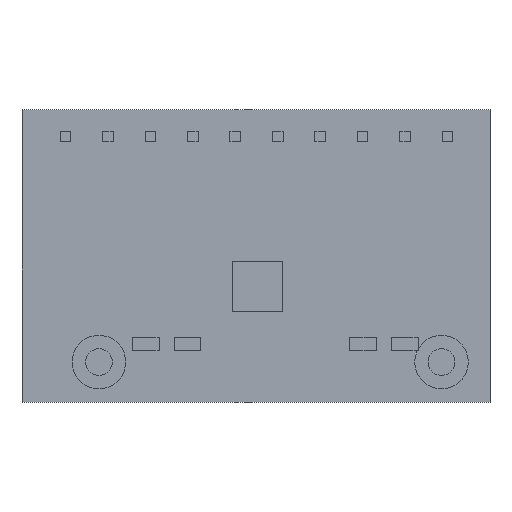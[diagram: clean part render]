
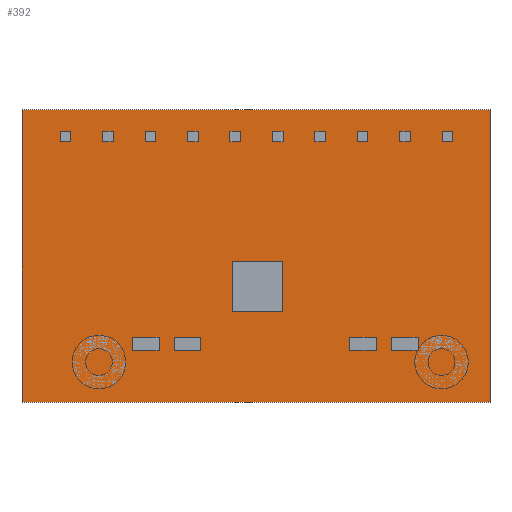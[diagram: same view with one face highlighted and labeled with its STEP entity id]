
A CAD part, top view. The second image highlights one B-rep face of the part: STEP entity #392.
In plain terms, the highlighted planar face has unit normal (0, 0, 1).
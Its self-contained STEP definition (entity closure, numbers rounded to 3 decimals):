
#78 = VERTEX_POINT('',#79);
#79 = CARTESIAN_POINT('',(-2.6,-15.9,12.6));
#86 = PLANE('',#87);
#87 = AXIS2_PLACEMENT_3D('',#88,#89,#90);
#88 = CARTESIAN_POINT('',(-2.6,-15.9,11.));
#89 = DIRECTION('',(1.,0.,0.));
#90 = DIRECTION('',(0.,0.,1.));
#98 = PLANE('',#99);
#99 = AXIS2_PLACEMENT_3D('',#100,#101,#102);
#100 = CARTESIAN_POINT('',(-2.6,-15.9,11.));
#101 = DIRECTION('',(0.,1.,0.));
#102 = DIRECTION('',(0.,0.,1.));
#139 = VERTEX_POINT('',#140);
#140 = CARTESIAN_POINT('',(-2.6,1.6,12.6));
#154 = PLANE('',#155);
#155 = AXIS2_PLACEMENT_3D('',#156,#157,#158);
#156 = CARTESIAN_POINT('',(-2.6,1.6,11.));
#157 = DIRECTION('',(0.,1.,0.));
#158 = DIRECTION('',(0.,0.,1.));
#166 = EDGE_CURVE('',#78,#139,#167,.T.);
#167 = SURFACE_CURVE('',#168,(#172,#179),.PCURVE_S1.);
#168 = LINE('',#169,#170);
#169 = CARTESIAN_POINT('',(-2.6,-15.9,12.6));
#170 = VECTOR('',#171,1.);
#171 = DIRECTION('',(0.,1.,0.));
#172 = PCURVE('',#86,#173);
#173 = DEFINITIONAL_REPRESENTATION('',(#174),#178);
#174 = LINE('',#175,#176);
#175 = CARTESIAN_POINT('',(1.6,0.));
#176 = VECTOR('',#177,1.);
#177 = DIRECTION('',(0.,-1.));
#178 = ( GEOMETRIC_REPRESENTATION_CONTEXT(2) 
PARAMETRIC_REPRESENTATION_CONTEXT() REPRESENTATION_CONTEXT('2D SPACE',''
  ) );
#179 = PCURVE('',#180,#185);
#180 = PLANE('',#181);
#181 = AXIS2_PLACEMENT_3D('',#182,#183,#184);
#182 = CARTESIAN_POINT('',(-2.6,-15.9,12.6));
#183 = DIRECTION('',(0.,0.,1.));
#184 = DIRECTION('',(1.,0.,0.));
#185 = DEFINITIONAL_REPRESENTATION('',(#186),#190);
#186 = LINE('',#187,#188);
#187 = CARTESIAN_POINT('',(0.,0.));
#188 = VECTOR('',#189,1.);
#189 = DIRECTION('',(0.,1.));
#190 = ( GEOMETRIC_REPRESENTATION_CONTEXT(2) 
PARAMETRIC_REPRESENTATION_CONTEXT() REPRESENTATION_CONTEXT('2D SPACE',''
  ) );
#198 = VERTEX_POINT('',#199);
#199 = CARTESIAN_POINT('',(25.4,-15.9,12.6));
#206 = PLANE('',#207);
#207 = AXIS2_PLACEMENT_3D('',#208,#209,#210);
#208 = CARTESIAN_POINT('',(25.4,-15.9,11.));
#209 = DIRECTION('',(1.,0.,0.));
#210 = DIRECTION('',(0.,0.,1.));
#249 = VERTEX_POINT('',#250);
#250 = CARTESIAN_POINT('',(25.4,1.6,12.6));
#271 = EDGE_CURVE('',#198,#249,#272,.T.);
#272 = SURFACE_CURVE('',#273,(#277,#284),.PCURVE_S1.);
#273 = LINE('',#274,#275);
#274 = CARTESIAN_POINT('',(25.4,-15.9,12.6));
#275 = VECTOR('',#276,1.);
#276 = DIRECTION('',(0.,1.,0.));
#277 = PCURVE('',#206,#278);
#278 = DEFINITIONAL_REPRESENTATION('',(#279),#283);
#279 = LINE('',#280,#281);
#280 = CARTESIAN_POINT('',(1.6,0.));
#281 = VECTOR('',#282,1.);
#282 = DIRECTION('',(0.,-1.));
#283 = ( GEOMETRIC_REPRESENTATION_CONTEXT(2) 
PARAMETRIC_REPRESENTATION_CONTEXT() REPRESENTATION_CONTEXT('2D SPACE',''
  ) );
#284 = PCURVE('',#180,#285);
#285 = DEFINITIONAL_REPRESENTATION('',(#286),#290);
#286 = LINE('',#287,#288);
#287 = CARTESIAN_POINT('',(28.,0.));
#288 = VECTOR('',#289,1.);
#289 = DIRECTION('',(0.,1.));
#290 = ( GEOMETRIC_REPRESENTATION_CONTEXT(2) 
PARAMETRIC_REPRESENTATION_CONTEXT() REPRESENTATION_CONTEXT('2D SPACE',''
  ) );
#317 = EDGE_CURVE('',#78,#198,#318,.T.);
#318 = SURFACE_CURVE('',#319,(#323,#330),.PCURVE_S1.);
#319 = LINE('',#320,#321);
#320 = CARTESIAN_POINT('',(-2.6,-15.9,12.6));
#321 = VECTOR('',#322,1.);
#322 = DIRECTION('',(1.,0.,0.));
#323 = PCURVE('',#98,#324);
#324 = DEFINITIONAL_REPRESENTATION('',(#325),#329);
#325 = LINE('',#326,#327);
#326 = CARTESIAN_POINT('',(1.6,0.));
#327 = VECTOR('',#328,1.);
#328 = DIRECTION('',(0.,1.));
#329 = ( GEOMETRIC_REPRESENTATION_CONTEXT(2) 
PARAMETRIC_REPRESENTATION_CONTEXT() REPRESENTATION_CONTEXT('2D SPACE',''
  ) );
#330 = PCURVE('',#180,#331);
#331 = DEFINITIONAL_REPRESENTATION('',(#332),#336);
#332 = LINE('',#333,#334);
#333 = CARTESIAN_POINT('',(0.,0.));
#334 = VECTOR('',#335,1.);
#335 = DIRECTION('',(1.,0.));
#336 = ( GEOMETRIC_REPRESENTATION_CONTEXT(2) 
PARAMETRIC_REPRESENTATION_CONTEXT() REPRESENTATION_CONTEXT('2D SPACE',''
  ) );
#364 = EDGE_CURVE('',#139,#249,#365,.T.);
#365 = SURFACE_CURVE('',#366,(#370,#377),.PCURVE_S1.);
#366 = LINE('',#367,#368);
#367 = CARTESIAN_POINT('',(-2.6,1.6,12.6));
#368 = VECTOR('',#369,1.);
#369 = DIRECTION('',(1.,0.,0.));
#370 = PCURVE('',#154,#371);
#371 = DEFINITIONAL_REPRESENTATION('',(#372),#376);
#372 = LINE('',#373,#374);
#373 = CARTESIAN_POINT('',(1.6,0.));
#374 = VECTOR('',#375,1.);
#375 = DIRECTION('',(0.,1.));
#376 = ( GEOMETRIC_REPRESENTATION_CONTEXT(2) 
PARAMETRIC_REPRESENTATION_CONTEXT() REPRESENTATION_CONTEXT('2D SPACE',''
  ) );
#377 = PCURVE('',#180,#378);
#378 = DEFINITIONAL_REPRESENTATION('',(#379),#383);
#379 = LINE('',#380,#381);
#380 = CARTESIAN_POINT('',(0.,17.5));
#381 = VECTOR('',#382,1.);
#382 = DIRECTION('',(1.,0.));
#383 = ( GEOMETRIC_REPRESENTATION_CONTEXT(2) 
PARAMETRIC_REPRESENTATION_CONTEXT() REPRESENTATION_CONTEXT('2D SPACE',''
  ) );
#392 = ADVANCED_FACE('',(#393),#180,.T.);
#393 = FACE_BOUND('',#394,.T.);
#394 = EDGE_LOOP('',(#395,#396,#397,#398));
#395 = ORIENTED_EDGE('',*,*,#166,.F.);
#396 = ORIENTED_EDGE('',*,*,#317,.T.);
#397 = ORIENTED_EDGE('',*,*,#271,.T.);
#398 = ORIENTED_EDGE('',*,*,#364,.F.);
